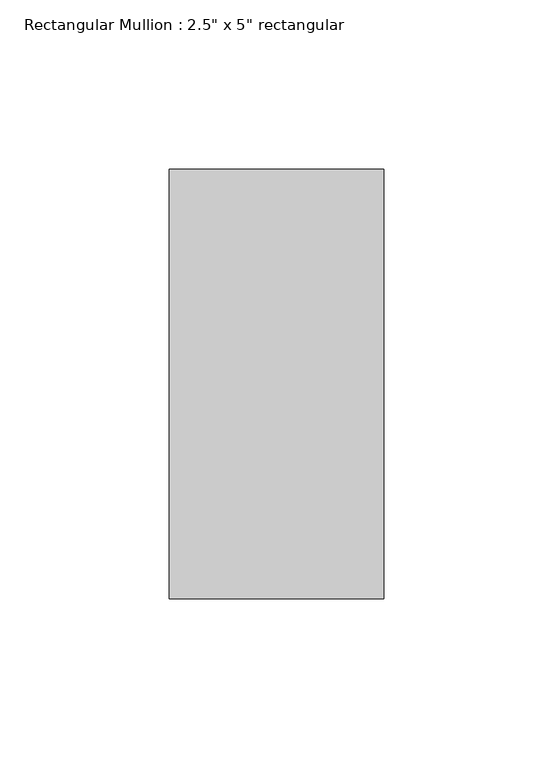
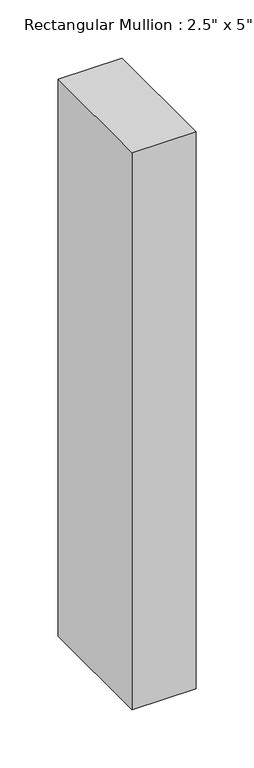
"""IFC4 building model written with IfcOpenShell, lengths in millimetres: member geometry."""

from ifc_helpers import new_model, si_unit, frame, origin, place, context, project, spatial, polyline, outline, extrude, source, transform, mapped, element, save


def member_96cc7568(model_context):
    return source(origin(), model_context, "Body", "SweptSolid", [
        extrude(outline(polyline([(31.75, 63.5), (31.75, -63.5), (-31.75, -63.5), (-31.75, 63.5), (31.75, 63.5)])), frame((0.0, 0.0, -584.2), z_axis=(0.0, 0.0, 1.0), x_axis=(1.0, 0.0, 0.0)), (0.0, 0.0, 1.0), 584.2),
    ])


if __name__ == "__main__":
    model = new_model("IFC4")
    model_context = context("Model", 3, world=origin())
    ifc_project = project(units=[si_unit("LENGTHUNIT", "METRE", prefix="MILLI")], contexts=[model_context])
    site = spatial("IfcSite", under=ifc_project)
    building = spatial("IfcBuilding", under=site)
    placement = place(None, origin())
    member_shape = member_96cc7568(model_context)
    element("IfcMember", 1, ObjectType="Rectangular Mullion : 2.5\" x 5\" rectangular", at=placement, inside=building, context=model_context, shape_type="MappedRepresentation", body=[
        mapped(member_shape, transform((0.0, 0.0, 0.0), x_axis=(1.0, 0.0, 0.0), y_axis=(0.0, 1.0, 0.0), z_axis=(0.0, 0.0, 1.0))),
    ])
    save(model, "model.ifc")
